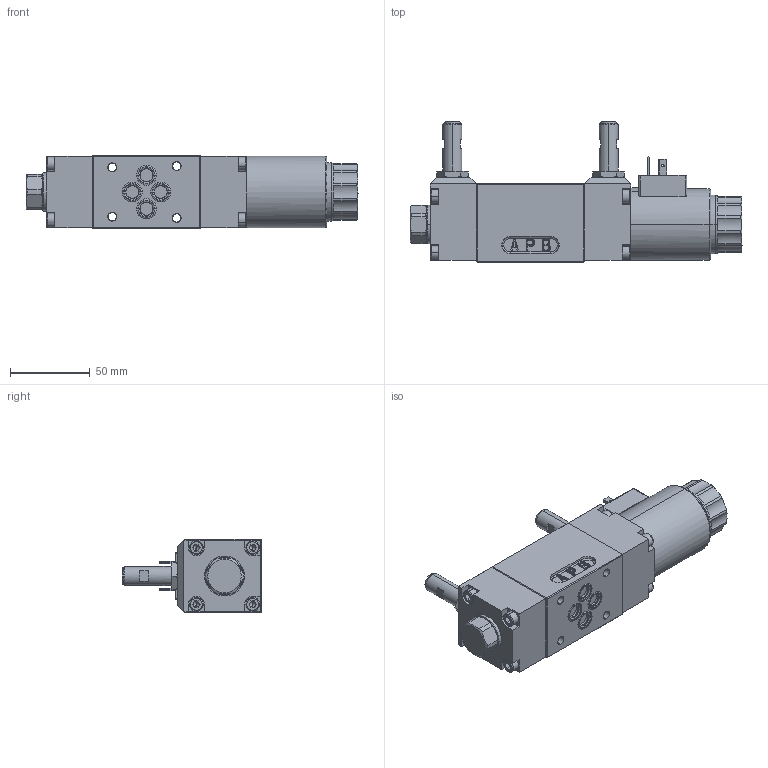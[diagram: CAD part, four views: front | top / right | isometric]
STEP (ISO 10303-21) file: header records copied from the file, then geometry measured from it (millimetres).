
FILE_DESCRIPTION (( 'STEP AP214' ), '1' );
FILE_NAME ('WDMFA06-4_2-Bside-Z72_482,Z72_603,Z72_680.STEP', '2019-08-12T13:53:51', ( '' ), ( '' ), 'SwSTEP 2.0', 'SolidWorks 2018', '' );
FILE_SCHEMA (( 'AUTOMOTIVE_DESIGN' ));
Length unit declared in the file: millimetre
Products named in the file (1): WDMFA06-4_2-Bside-Z72_482,Z72_603,Z72_680
Bounding box: 208.3 x 87.8 x 46 mm (x, y, z)
Volume: 395702 mm3; surface area: 60576.8 mm2
Topology: 9 solids, 20 shells, 1949 faces, 5167 edges, 3310 vertices
Faces by surface type: plane 928, cylinder 697, cone 151, bspline 89, torus 62, sphere 22
Entity records: 85437 total; most frequent: CARTESIAN_POINT 15653, ORIENTED_EDGE 10252, DIRECTION 10067, EDGE_CURVE 5126, AXIS2_PLACEMENT_3D 3639, VERTEX_POINT 3310, VECTOR 2789, LINE 2789
